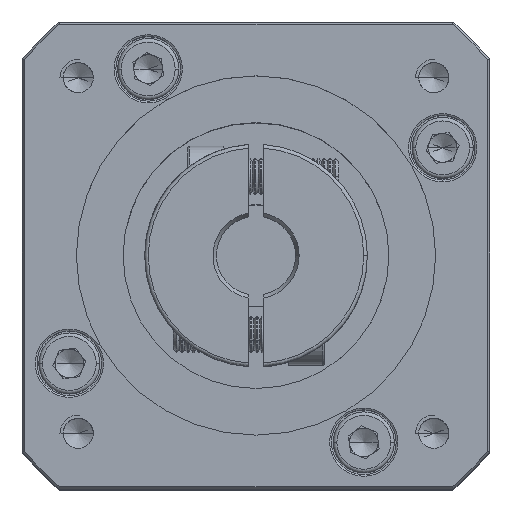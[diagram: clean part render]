
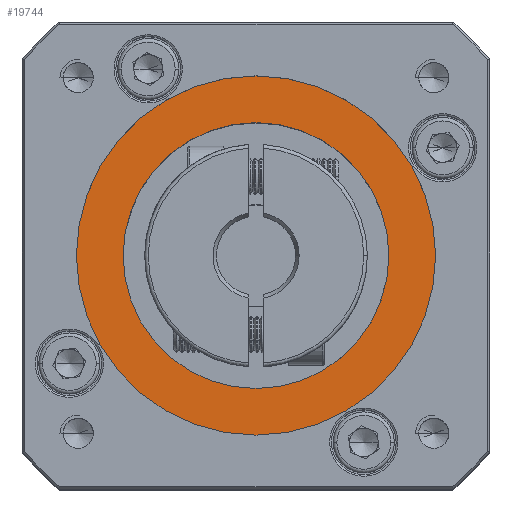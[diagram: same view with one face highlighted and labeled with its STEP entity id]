
A CAD part, top view. The second image highlights one B-rep face of the part: STEP entity #19744.
In plain terms, the highlighted planar face has unit normal (0, 0, 1).
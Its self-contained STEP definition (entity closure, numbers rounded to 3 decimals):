
#2709 = DIRECTION ( 'NONE',  ( 0., 0., -1. ) ) ;
#4452 = AXIS2_PLACEMENT_3D ( 'NONE', #118344, #2709, #80007 ) ;
#7200 = CIRCLE ( 'NONE', #4452, 18.5 ) ;
#9387 = DIRECTION ( 'NONE',  ( 0., 0., 1. ) ) ;
#10021 = ORIENTED_EDGE ( 'NONE', *, *, #68561, .T. ) ;
#16524 = VERTEX_POINT ( 'NONE', #113334 ) ;
#17159 = CARTESIAN_POINT ( 'NONE',  ( -33.669, 13.968, -3.341 ) ) ;
#19744 = ADVANCED_FACE ( 'NONE', ( #45345, #22581 ), #112135, .T. ) ;
#22581 = FACE_BOUND ( 'NONE', #92410, .T. ) ;
#27211 = AXIS2_PLACEMENT_3D ( 'NONE', #44329, #81836, #82261 ) ;
#29952 = CIRCLE ( 'NONE', #82215, 25. ) ;
#34941 = CIRCLE ( 'NONE', #63407, 25. ) ;
#39877 = VERTEX_POINT ( 'NONE', #60075 ) ;
#43490 = ORIENTED_EDGE ( 'NONE', *, *, #61224, .T. ) ;
#44329 = CARTESIAN_POINT ( 'NONE',  ( -33.669, 13.968, -3.341 ) ) ;
#45345 = FACE_OUTER_BOUND ( 'NONE', #125083, .T. ) ;
#52714 = VERTEX_POINT ( 'NONE', #82524 ) ;
#58016 = DIRECTION ( 'NONE',  ( 1., 0., 0. ) ) ;
#60075 = CARTESIAN_POINT ( 'NONE',  ( -15.169, 13.968, -3.341 ) ) ;
#60838 = DIRECTION ( 'NONE',  ( 0., 0., -1. ) ) ;
#61224 = EDGE_CURVE ( 'NONE', #16524, #52714, #34941, .T. ) ;
#63407 = AXIS2_PLACEMENT_3D ( 'NONE', #67735, #9387, #58016 ) ;
#67021 = DIRECTION ( 'NONE',  ( 1., 0., 0. ) ) ;
#67735 = CARTESIAN_POINT ( 'NONE',  ( -33.669, 13.968, -3.341 ) ) ;
#68561 = EDGE_CURVE ( 'NONE', #52714, #16524, #29952, .T. ) ;
#71074 = AXIS2_PLACEMENT_3D ( 'NONE', #80620, #60838, #109255 ) ;
#77640 = ORIENTED_EDGE ( 'NONE', *, *, #103716, .T. ) ;
#80007 = DIRECTION ( 'NONE',  ( 1., 0., 0. ) ) ;
#80620 = CARTESIAN_POINT ( 'NONE',  ( -33.669, 13.968, -3.341 ) ) ;
#81836 = DIRECTION ( 'NONE',  ( 0., 0., 1. ) ) ;
#82215 = AXIS2_PLACEMENT_3D ( 'NONE', #17159, #86319, #67021 ) ;
#82261 = DIRECTION ( 'NONE',  ( 1., 0., 0. ) ) ;
#82524 = CARTESIAN_POINT ( 'NONE',  ( -8.669, 13.968, -3.341 ) ) ;
#84103 = CIRCLE ( 'NONE', #71074, 18.5 ) ;
#85377 = VERTEX_POINT ( 'NONE', #94497 ) ;
#86319 = DIRECTION ( 'NONE',  ( 0., 0., 1. ) ) ;
#92410 = EDGE_LOOP ( 'NONE', ( #77640, #103742 ) ) ;
#94497 = CARTESIAN_POINT ( 'NONE',  ( -52.169, 13.968, -3.341 ) ) ;
#103716 = EDGE_CURVE ( 'NONE', #39877, #85377, #7200, .T. ) ;
#103742 = ORIENTED_EDGE ( 'NONE', *, *, #121009, .T. ) ;
#109255 = DIRECTION ( 'NONE',  ( 1., 0., 0. ) ) ;
#112135 = PLANE ( 'NONE',  #27211 ) ;
#113334 = CARTESIAN_POINT ( 'NONE',  ( -58.669, 13.968, -3.341 ) ) ;
#118344 = CARTESIAN_POINT ( 'NONE',  ( -33.669, 13.968, -3.341 ) ) ;
#121009 = EDGE_CURVE ( 'NONE', #85377, #39877, #84103, .T. ) ;
#125083 = EDGE_LOOP ( 'NONE', ( #10021, #43490 ) ) ;
